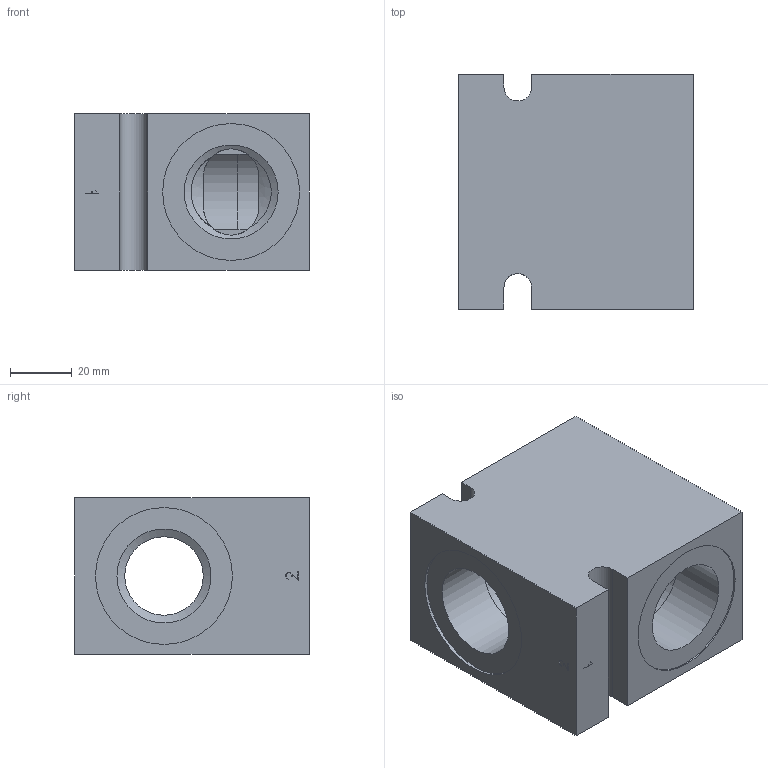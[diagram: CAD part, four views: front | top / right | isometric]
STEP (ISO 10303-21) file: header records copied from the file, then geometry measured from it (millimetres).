
FILE_DESCRIPTION( ( 'Unknown' ), '1' );
FILE_NAME( 'G:/Graphic Design/Graphic Design 2/Data Sheets/Delta Bodies/DRAWINGS/B-DSJE2.stp', 'Unknown', ( 'Unknown' ), ( 'Unknown' ), 'PSStep 16.0.42', 'Unknown', ' ' );
FILE_SCHEMA( ( 'AUTOMOTIVE_DESIGN { 1 0 10303 214 1 1 1 1 }' ) );
Length unit declared in the file: millimetre
Products named in the file (2): Assem1; B-DSJE2
Assembly tree (1 placements, depth 2):
  Assem1
    B-DSJE2
Bounding box: 76.2 x 76.2 x 50.8 mm (x, y, z)
Surface area: 36742 mm2 (no closed solid volume)
Topology: 0 solids, 88 shells, 88 faces, 439 edges, 420 vertices
Faces by surface type: plane 61, cylinder 18, cone 8, torus 1
Full cylindrical faces by diameter (mm): 0.2 x2, 28.651 x1, 30.5 x4, 31.806 x2, 44.45 x2, 48.514 x1
Entity records: 4986 total; most frequent: CARTESIAN_POINT 1370, DIRECTION 494, ORIENTED_EDGE 410, EDGE_CURVE 410, VERTEX_POINT 410, B_SPLINE_CURVE_WITH_KNOTS 172, AXIS2_PLACEMENT_3D 166, LINE 162
